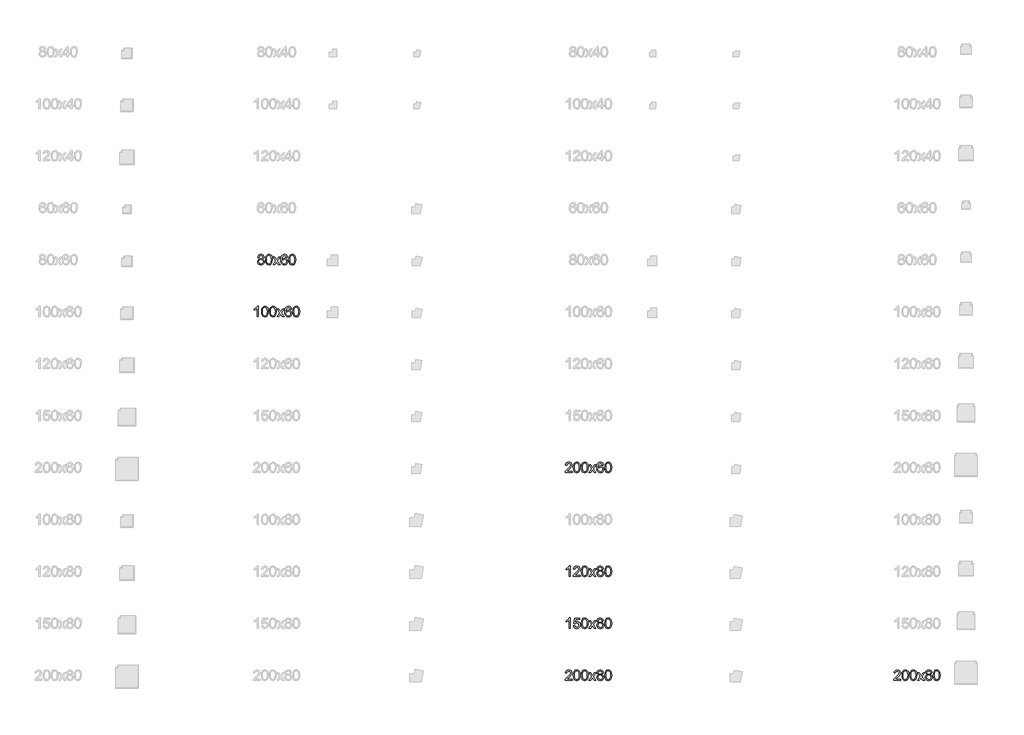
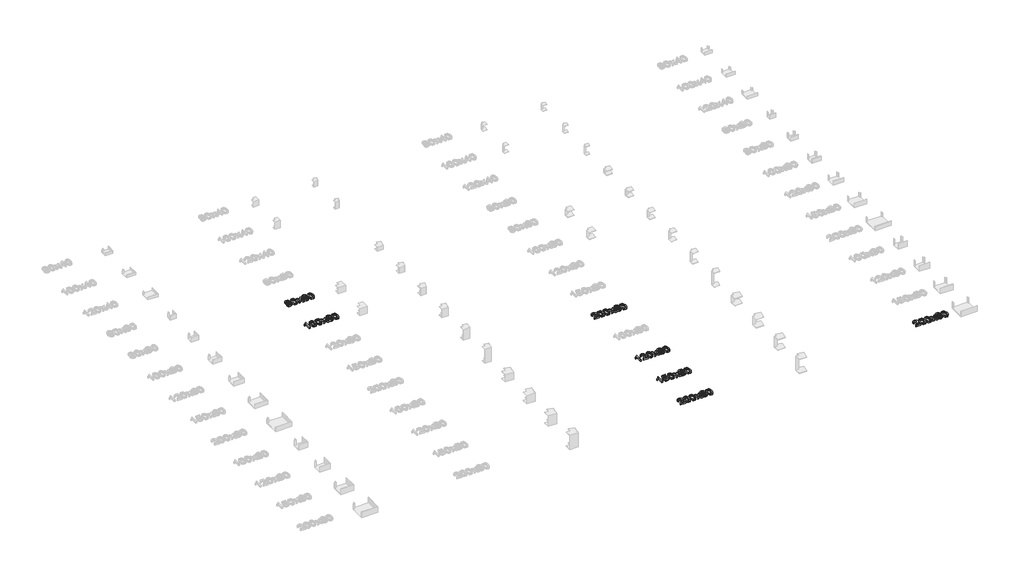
# One storey, part 15 of 28: 7 proxies.
"""IFC4 building model written with IfcOpenShell, lengths in millimetres."""

from ifc_helpers import new_model, si_unit, origin, origin_with_axes, place, context, project, spatial, polyline, outline, extrude, element, save

model = new_model("IFC4")

# Units and contexts
model_context = context("Model", 3, world=origin())
ifc_project = project(units=[si_unit("LENGTHUNIT", "METRE", prefix="MILLI")], contexts=[model_context])

# Site, building, storey
site = spatial("IfcSite", under=ifc_project)
building = spatial("IfcBuilding", under=site)
storey = spatial("IfcBuildingStorey", under=building, Name="Этаж 01", Elevation=0.0)

# Proxies
placement = place(None, origin())
element("IfcBuildingElementProxy", 1, Name="100 мм Arial", ObjectType="100 мм Arial", at=placement, inside=storey, context=model_context, shape_type="SweptSolid", body=[
    extrude(outline(polyline([(15077.1955345, -408.0058037), (15065.7544045, -400.2067054), (15062.0387963, -388.0665996), (15064.0621473, -378.2502817), (15070.1322002, -370.1384837), (15079.5683734, -364.6938302), (15091.6900851, -362.8789457), (15103.8853733, -364.7367497), (15113.4441738, -370.310162), (15119.6245913, -378.5507186), (15121.6847305, -388.4099561), (15118.0181733, -400.2434936), (15106.8958743, -408.0058037), (15120.2499907, -417.8527785), (15124.8239902, -434.1008999), (15122.5553845, -446.1061157), (15115.7495676, -456.0266668), (15105.2404053, -462.6853309), (15091.8617634, -464.9048856), (15078.4831215, -462.6761339), (15067.9739592, -455.9898786), (15061.1681423, -445.9742913), (15058.8995366, -433.7575434), (15063.6574771, -417.1292772), (15077.1955345, -408.0058037)]), holes=[polyline([(15074.5958351, -388.4344816), (15079.0472072, -398.2937191), (15092.0089162, -402.1196918), (15104.7131078, -398.3182445), (15109.1276917, -388.9985673), (15104.565955, -379.3477963), (15091.8617634, -375.4359844), (15079.1207836, -379.2619572), (15074.5958351, -388.4344816)]), polyline([(15071.4565754, -433.316085), (15073.5535028, -442.7706523), (15080.9724563, -449.8462493), (15091.9598653, -452.3478469), (15100.5069903, -451.0326687), (15106.9203997, -447.0871343), (15112.2669514, -433.7084925), (15106.7487215, -420.0723332), (15100.1881592, -416.0256312), (15091.5429323, -414.6767306), (15083.115369, -416.0072371), (15076.7663389, -419.9987568), (15071.4565754, -433.316085)])]), origin_with_axes(), (0.0, 0.0, 1.0), 20.0),
    extrude(outline(polyline([(15135.8113991, -413.9164411), (15139.5024818, -385.013179), (15150.4653652, -368.3481246), (15168.7736259, -362.8789457), (15183.4398547, -366.1163072), (15193.5688723, -375.4482472), (15199.4549843, -390.3106798), (15201.7358526, -413.9164411), (15198.0815581, -442.6970759), (15187.1554629, -459.3989185), (15178.9241032, -463.5283938), (15168.7736259, -464.9048856), (15155.7260778, -462.5136527), (15145.8177894, -455.3399538), (15138.3129967, -438.349937), (15135.8113991, -413.9164411)]), holes=[polyline([(15148.3684379, -413.8919156), (15149.8399658, -433.6441131), (15154.2545498, -445.0760461), (15160.8273748, -450.5298967), (15168.7736259, -452.3478469), (15176.719877, -450.5237653), (15183.2927019, -445.0515206), (15187.7072859, -433.6134563), (15189.1788139, -413.8919156), (15187.7563368, -394.5842423), (15183.4889057, -383.0634045), (15176.9283434, -377.3428394), (15168.6264731, -375.4359844), (15160.7660611, -377.1159789), (15154.4507535, -382.1559622), (15149.8890168, -394.3941699), (15148.3684379, -413.8919156)])]), origin_with_axes(), (0.0, 0.0, 1.0), 20.0),
    extrude(outline(polyline([(15208.014372, -463.3352558), (15234.8452322, -426.2527507), (15209.5840019, -389.562653), (15224.6916891, -389.562653), (15236.8808459, -407.2209888), (15242.5707541, -415.5596474), (15247.5003728, -408.7415677), (15261.3817868, -389.562653), (15276.489474, -389.562653), (15249.9529195, -426.2527507), (15275.5084554, -463.3352558), (15260.4007681, -463.3352558), (15245.0233007, -441.0416069), (15242.2028721, -436.9703795), (15223.1220593, -463.3352558), (15208.014372, -463.3352558)])), origin_with_axes(), (0.0, 0.0, 1.0), 20.0),
    extrude(outline(polyline([(15347.7114283, -389.562653), (15335.1543895, -391.1322829), (15330.3964491, -380.6599088), (15317.8148848, -375.4359844), (15306.4841194, -378.4771422), (15297.9124689, -389.8937468), (15294.3440135, -412.2732349), (15305.4172616, -402.2545819), (15319.13926, -398.9804321), (15330.7398056, -401.2183809), (15340.4764157, -407.9322273), (15347.0798976, -418.1900036), (15349.2810582, -431.0597421), (15345.1362543, -448.3869841), (15333.7319125, -460.6497172), (15317.2753246, -464.9048856), (15303.0290943, -462.084457), (15291.6830004, -453.6231711), (15284.2609812, -438.6871621), (15281.7869748, -416.4425641), (15284.533827, -391.4327198), (15292.7743837, -374.3323384), (15304.0254414, -365.7422938), (15318.5996998, -362.8789457), (15329.6177655, -364.6509106), (15338.440802, -369.9668054), (15344.6212196, -378.4096972), (15347.7114283, -389.562653)]), holes=[polyline([(15294.3440135, -430.8635384), (15297.2502813, -441.7405827), (15304.9758032, -449.6377828), (15316.2943059, -452.3478469), (15324.5808479, -450.9437639), (15331.0954249, -446.7315151), (15335.3168708, -440.1096392), (15336.7240194, -431.476675), (15335.3352649, -423.1901331), (15331.1690013, -416.8717598), (15324.5440597, -412.8710431), (15315.7792711, -411.5374709), (15300.5857447, -416.8717598), (15295.9044463, -423.0368489), (15294.3440135, -430.8635384)])]), origin_with_axes(), (0.0, 0.0, 1.0), 20.0),
    extrude(outline(polyline([(15360.2684671, -413.9164411), (15363.9595498, -385.013179), (15374.9224332, -368.3481246), (15393.2306938, -362.8789457), (15407.8969227, -366.1163072), (15418.0259403, -375.4482472), (15423.9120522, -390.3106798), (15426.1929206, -413.9164411), (15422.5386261, -442.6970759), (15411.6125309, -459.3989185), (15403.3811712, -463.5283938), (15393.2306938, -464.9048856), (15380.1831458, -462.5136527), (15370.2748573, -455.3399538), (15362.7700646, -438.349937), (15360.2684671, -413.9164411)]), holes=[polyline([(15372.8255058, -413.8919156), (15374.2970338, -433.6441131), (15378.7116178, -445.0760461), (15385.2844428, -450.5298967), (15393.2306938, -452.3478469), (15401.1769449, -450.5237653), (15407.7497699, -445.0515206), (15412.1643539, -433.6134563), (15413.6358818, -413.8919156), (15412.2134048, -394.5842423), (15407.9459737, -383.0634045), (15401.3854114, -377.3428394), (15393.0835411, -375.4359844), (15385.2231291, -377.1159789), (15378.9078215, -382.1559622), (15374.3460848, -394.3941699), (15372.8255058, -413.8919156)])]), origin_with_axes(), (0.0, 0.0, 1.0), 20.0),
])
element("IfcBuildingElementProxy", 2, Name="100 мм Arial", ObjectType="100 мм Arial", at=placement, inside=storey, context=model_context, shape_type="SweptSolid", body=[
    extrude(outline(polyline([(15067.5325008, -963.3352558), (15054.975462, -963.3352558), (15054.975462, -885.0499672), (15043.0806108, -893.5235158), (15029.8613845, -899.8633489), (15029.8613845, -887.9930232), (15048.267747, -876.2453248), (15059.4390969, -862.8789457), (15067.5325008, -862.8789457), (15067.5325008, -963.3352558)])), origin_with_axes(), (0.0, 0.0, 1.0), 20.0),
    extrude(outline(polyline([(15097.3554679, -913.9164411), (15101.0465505, -885.013179), (15112.009434, -868.3481246), (15130.3176946, -862.8789457), (15144.9839235, -866.1163072), (15155.1129411, -875.4482472), (15160.999053, -890.3106798), (15163.2799214, -913.9164411), (15159.6256269, -942.6970759), (15148.6995317, -959.3989185), (15140.468172, -963.5283938), (15130.3176946, -964.9048856), (15117.2701465, -962.5136527), (15107.3618581, -955.3399538), (15099.8570654, -938.349937), (15097.3554679, -913.9164411)]), holes=[polyline([(15109.9125066, -913.8919156), (15111.3840346, -933.6441131), (15115.7986186, -945.0760461), (15122.3714435, -950.5298967), (15130.3176946, -952.3478469), (15138.2639457, -950.5237653), (15144.8367707, -945.0515206), (15149.2513546, -933.6134563), (15150.7228826, -913.8919156), (15149.3004056, -894.5842423), (15145.0329744, -883.0634045), (15138.4724122, -877.3428394), (15130.1705418, -875.4359844), (15122.3101299, -877.1159789), (15115.9948223, -882.1559622), (15111.4330855, -894.3941699), (15109.9125066, -913.8919156)])]), origin_with_axes(), (0.0, 0.0, 1.0), 20.0),
    extrude(outline(polyline([(15174.2673303, -913.9164411), (15177.958413, -885.013179), (15188.9212965, -868.3481246), (15207.2295571, -862.8789457), (15221.895786, -866.1163072), (15232.0248036, -875.4482472), (15237.9109155, -890.3106798), (15240.1917839, -913.9164411), (15236.5374894, -942.6970759), (15225.6113941, -959.3989185), (15217.3800345, -963.5283938), (15207.2295571, -964.9048856), (15194.182009, -962.5136527), (15184.2737206, -955.3399538), (15176.7689279, -938.349937), (15174.2673303, -913.9164411)]), holes=[polyline([(15186.8243691, -913.8919156), (15188.2958971, -933.6441131), (15192.710481, -945.0760461), (15199.283306, -950.5298967), (15207.2295571, -952.3478469), (15215.1758082, -950.5237653), (15221.7486332, -945.0515206), (15226.1632171, -933.6134563), (15227.6347451, -913.8919156), (15226.212268, -894.5842423), (15221.9448369, -883.0634045), (15215.3842746, -877.3428394), (15207.0824043, -875.4359844), (15199.2219923, -877.1159789), (15192.9066847, -882.1559622), (15188.344948, -894.3941699), (15186.8243691, -913.8919156)])]), origin_with_axes(), (0.0, 0.0, 1.0), 20.0),
    extrude(outline(polyline([(15246.4703032, -963.3352558), (15273.3011634, -926.2527507), (15248.0399331, -889.562653), (15263.1476204, -889.562653), (15275.3367771, -907.2209888), (15281.0266853, -915.5596474), (15285.9563041, -908.7415677), (15299.837718, -889.562653), (15314.9454053, -889.562653), (15288.4088507, -926.2527507), (15313.9643866, -963.3352558), (15298.8566994, -963.3352558), (15283.479232, -941.0416069), (15280.6588033, -936.9703795), (15261.5779905, -963.3352558), (15246.4703032, -963.3352558)])), origin_with_axes(), (0.0, 0.0, 1.0), 20.0),
    extrude(outline(polyline([(15386.1673595, -889.562653), (15373.6103208, -891.1322829), (15368.8523803, -880.6599088), (15356.2708161, -875.4359844), (15344.9400506, -878.4771422), (15336.3684001, -889.8937468), (15332.7999448, -912.2732349), (15343.8731928, -902.2545819), (15357.5951912, -898.9804321), (15369.1957368, -901.2183809), (15378.932347, -907.9322273), (15385.5358288, -918.1900036), (15387.7369894, -931.0597421), (15383.5921856, -948.3869841), (15372.1878437, -960.6497172), (15355.7312558, -964.9048856), (15341.4850255, -962.084457), (15330.1389317, -953.6231711), (15322.7169124, -938.6871621), (15320.242906, -916.4425641), (15322.9897582, -891.4327198), (15331.2303149, -874.3323384), (15342.4813726, -865.7422938), (15357.055631, -862.8789457), (15368.0736967, -864.6509106), (15376.8967333, -869.9668054), (15383.0771508, -878.4096972), (15386.1673595, -889.562653)]), holes=[polyline([(15332.7999448, -930.8635384), (15335.7062125, -941.7405827), (15343.4317344, -949.6377828), (15354.7502372, -952.3478469), (15363.0367791, -950.9437639), (15369.5513561, -946.7315151), (15373.772802, -940.1096392), (15375.1799506, -931.476675), (15373.7911961, -923.1901331), (15369.6249325, -916.8717598), (15362.9999909, -912.8710431), (15354.2352024, -911.5374709), (15339.041676, -916.8717598), (15334.3603776, -923.0368489), (15332.7999448, -930.8635384)])]), origin_with_axes(), (0.0, 0.0, 1.0), 20.0),
    extrude(outline(polyline([(15398.7243983, -913.9164411), (15402.415481, -885.013179), (15413.3783645, -868.3481246), (15431.6866251, -862.8789457), (15446.352854, -866.1163072), (15456.4818716, -875.4482472), (15462.3679835, -890.3106798), (15464.6488518, -913.9164411), (15460.9945574, -942.6970759), (15450.0684621, -959.3989185), (15441.8371025, -963.5283938), (15431.6866251, -964.9048856), (15418.639077, -962.5136527), (15408.7307886, -955.3399538), (15401.2259959, -938.349937), (15398.7243983, -913.9164411)]), holes=[polyline([(15411.2814371, -913.8919156), (15412.7529651, -933.6441131), (15417.167549, -945.0760461), (15423.740374, -950.5298967), (15431.6866251, -952.3478469), (15439.6328762, -950.5237653), (15446.2057012, -945.0515206), (15450.6202851, -933.6134563), (15452.0918131, -913.8919156), (15450.669336, -894.5842423), (15446.4019049, -883.0634045), (15439.8413426, -877.3428394), (15431.5394723, -875.4359844), (15423.6790603, -877.1159789), (15417.3637527, -882.1559622), (15412.802016, -894.3941699), (15411.2814371, -913.8919156)])]), origin_with_axes(), (0.0, 0.0, 1.0), 20.0),
])
element("IfcBuildingElementProxy", 3, Name="100 мм Arial", ObjectType="100 мм Arial", at=placement, inside=storey, context=model_context, shape_type="SweptSolid", body=[
    extrude(outline(polyline([(18084.7984291, -2450.778217), (18084.7984291, -2463.3352558), (18018.8739756, -2463.3352558), (18020.2228762, -2454.6777662), (18027.8502962, -2441.3481752), (18043.5711202, -2426.7923109), (18065.2516324, -2405.8720882), (18070.6717605, -2391.6473177), (18065.5582007, -2380.1326112), (18052.2040843, -2375.4359844), (18038.2858822, -2380.0222466), (18033.0006442, -2392.7019127), (18020.4436054, -2391.1322829), (18023.4878289, -2378.9860457), (18030.0698509, -2370.1139582), (18039.846315, -2364.6876988), (18052.4738644, -2362.8789457), (18065.1933844, -2364.8900339), (18074.9514544, -2370.9232986), (18081.159463, -2379.9364075), (18083.2287992, -2390.8870282), (18080.9969818, -2402.7941421), (18073.5780282, -2415.1059262), (18055.5885987, -2432.3105409), (18041.143099, -2444.389333), (18035.4777163, -2450.778217), (18084.7984291, -2450.778217)])), origin_with_axes(), (0.0, 0.0, 1.0), 20.0),
    extrude(outline(polyline([(18097.3554679, -2413.9164411), (18101.0465505, -2385.013179), (18112.009434, -2368.3481246), (18130.3176946, -2362.8789457), (18144.9839235, -2366.1163072), (18155.1129411, -2375.4482472), (18160.999053, -2390.3106798), (18163.2799214, -2413.9164411), (18159.6256269, -2442.6970759), (18148.6995317, -2459.3989185), (18140.468172, -2463.5283938), (18130.3176946, -2464.9048856), (18117.2701465, -2462.5136527), (18107.3618581, -2455.3399538), (18099.8570654, -2438.349937), (18097.3554679, -2413.9164411)]), holes=[polyline([(18109.9125066, -2413.8919156), (18111.3840346, -2433.6441131), (18115.7986186, -2445.0760461), (18122.3714435, -2450.5298967), (18130.3176946, -2452.3478469), (18138.2639457, -2450.5237653), (18144.8367707, -2445.0515206), (18149.2513546, -2433.6134563), (18150.7228826, -2413.8919156), (18149.3004056, -2394.5842423), (18145.0329744, -2383.0634045), (18138.4724122, -2377.3428394), (18130.1705418, -2375.4359844), (18122.3101299, -2377.1159789), (18115.9948223, -2382.1559622), (18111.4330855, -2394.3941699), (18109.9125066, -2413.8919156)])]), origin_with_axes(), (0.0, 0.0, 1.0), 20.0),
    extrude(outline(polyline([(18174.2673303, -2413.9164411), (18177.958413, -2385.013179), (18188.9212965, -2368.3481246), (18207.2295571, -2362.8789457), (18221.895786, -2366.1163072), (18232.0248036, -2375.4482472), (18237.9109155, -2390.3106798), (18240.1917839, -2413.9164411), (18236.5374894, -2442.6970759), (18225.6113941, -2459.3989185), (18217.3800345, -2463.5283938), (18207.2295571, -2464.9048856), (18194.182009, -2462.5136527), (18184.2737206, -2455.3399538), (18176.7689279, -2438.349937), (18174.2673303, -2413.9164411)]), holes=[polyline([(18186.8243691, -2413.8919156), (18188.2958971, -2433.6441131), (18192.710481, -2445.0760461), (18199.283306, -2450.5298967), (18207.2295571, -2452.3478469), (18215.1758082, -2450.5237653), (18221.7486332, -2445.0515206), (18226.1632171, -2433.6134563), (18227.6347451, -2413.8919156), (18226.212268, -2394.5842423), (18221.9448369, -2383.0634045), (18215.3842746, -2377.3428394), (18207.0824043, -2375.4359844), (18199.2219923, -2377.1159789), (18192.9066847, -2382.1559622), (18188.344948, -2394.3941699), (18186.8243691, -2413.8919156)])]), origin_with_axes(), (0.0, 0.0, 1.0), 20.0),
    extrude(outline(polyline([(18246.4703032, -2463.3352558), (18273.3011634, -2426.2527507), (18248.0399331, -2389.562653), (18263.1476204, -2389.562653), (18275.3367771, -2407.2209888), (18281.0266853, -2415.5596474), (18285.9563041, -2408.7415677), (18299.837718, -2389.562653), (18314.9454053, -2389.562653), (18288.4088507, -2426.2527507), (18313.9643866, -2463.3352558), (18298.8566994, -2463.3352558), (18283.479232, -2441.0416069), (18280.6588033, -2436.9703795), (18261.5779905, -2463.3352558), (18246.4703032, -2463.3352558)])), origin_with_axes(), (0.0, 0.0, 1.0), 20.0),
    extrude(outline(polyline([(18386.1673595, -2389.562653), (18373.6103208, -2391.1322829), (18368.8523803, -2380.6599088), (18356.2708161, -2375.4359844), (18344.9400506, -2378.4771422), (18336.3684001, -2389.8937468), (18332.7999448, -2412.2732349), (18343.8731928, -2402.2545819), (18357.5951912, -2398.9804321), (18369.1957368, -2401.2183809), (18378.932347, -2407.9322273), (18385.5358288, -2418.1900036), (18387.7369894, -2431.0597421), (18383.5921856, -2448.3869841), (18372.1878437, -2460.6497172), (18355.7312558, -2464.9048856), (18341.4850255, -2462.084457), (18330.1389317, -2453.6231711), (18322.7169124, -2438.6871621), (18320.242906, -2416.4425641), (18322.9897582, -2391.4327198), (18331.2303149, -2374.3323384), (18342.4813726, -2365.7422938), (18357.055631, -2362.8789457), (18368.0736967, -2364.6509106), (18376.8967333, -2369.9668054), (18383.0771508, -2378.4096972), (18386.1673595, -2389.562653)]), holes=[polyline([(18332.7999448, -2430.8635384), (18335.7062125, -2441.7405827), (18343.4317344, -2449.6377828), (18354.7502372, -2452.3478469), (18363.0367791, -2450.9437639), (18369.5513561, -2446.7315151), (18373.772802, -2440.1096392), (18375.1799506, -2431.476675), (18373.7911961, -2423.1901331), (18369.6249325, -2416.8717598), (18362.9999909, -2412.8710431), (18354.2352024, -2411.5374709), (18339.041676, -2416.8717598), (18334.3603776, -2423.0368489), (18332.7999448, -2430.8635384)])]), origin_with_axes(), (0.0, 0.0, 1.0), 20.0),
    extrude(outline(polyline([(18398.7243983, -2413.9164411), (18402.415481, -2385.013179), (18413.3783645, -2368.3481246), (18431.6866251, -2362.8789457), (18446.352854, -2366.1163072), (18456.4818716, -2375.4482472), (18462.3679835, -2390.3106798), (18464.6488518, -2413.9164411), (18460.9945574, -2442.6970759), (18450.0684621, -2459.3989185), (18441.8371025, -2463.5283938), (18431.6866251, -2464.9048856), (18418.639077, -2462.5136527), (18408.7307886, -2455.3399538), (18401.2259959, -2438.349937), (18398.7243983, -2413.9164411)]), holes=[polyline([(18411.2814371, -2413.8919156), (18412.7529651, -2433.6441131), (18417.167549, -2445.0760461), (18423.740374, -2450.5298967), (18431.6866251, -2452.3478469), (18439.6328762, -2450.5237653), (18446.2057012, -2445.0515206), (18450.6202851, -2433.6134563), (18452.0918131, -2413.8919156), (18450.669336, -2394.5842423), (18446.4019049, -2383.0634045), (18439.8413426, -2377.3428394), (18431.5394723, -2375.4359844), (18423.6790603, -2377.1159789), (18417.3637527, -2382.1559622), (18412.802016, -2394.3941699), (18411.2814371, -2413.8919156)])]), origin_with_axes(), (0.0, 0.0, 1.0), 20.0),
])
element("IfcBuildingElementProxy", 4, Name="100 мм Arial", ObjectType="100 мм Arial", at=placement, inside=storey, context=model_context, shape_type="SweptSolid", body=[
    extrude(outline(polyline([(18067.5325008, -3463.3352558), (18054.975462, -3463.3352558), (18054.975462, -3385.0499672), (18043.0806108, -3393.5235158), (18029.8613845, -3399.8633489), (18029.8613845, -3387.9930232), (18048.267747, -3376.2453248), (18059.4390969, -3362.8789457), (18067.5325008, -3362.8789457), (18067.5325008, -3463.3352558)])), origin_with_axes(), (0.0, 0.0, 1.0), 20.0),
    extrude(outline(polyline([(18161.7102916, -3450.778217), (18161.7102916, -3463.3352558), (18095.785838, -3463.3352558), (18097.1347387, -3454.6777662), (18104.7621587, -3441.3481752), (18120.4829826, -3426.7923109), (18142.1634949, -3405.8720882), (18147.5836229, -3391.6473177), (18142.4700632, -3380.1326112), (18129.1159468, -3375.4359844), (18115.1977446, -3380.0222466), (18109.9125066, -3392.7019127), (18097.3554679, -3391.1322829), (18100.3996914, -3378.9860457), (18106.9817134, -3370.1139582), (18116.7581774, -3364.6876988), (18129.3857269, -3362.8789457), (18142.1052469, -3364.8900339), (18151.8633168, -3370.9232986), (18158.0713255, -3379.9364075), (18160.1406617, -3390.8870282), (18157.9088443, -3402.7941421), (18150.4898907, -3415.1059262), (18132.5004611, -3432.3105409), (18118.0549615, -3444.389333), (18112.3895787, -3450.778217), (18161.7102916, -3450.778217)])), origin_with_axes(), (0.0, 0.0, 1.0), 20.0),
    extrude(outline(polyline([(18174.2673303, -3413.9164411), (18177.958413, -3385.013179), (18188.9212965, -3368.3481246), (18207.2295571, -3362.8789457), (18221.895786, -3366.1163072), (18232.0248036, -3375.4482472), (18237.9109155, -3390.3106798), (18240.1917839, -3413.9164411), (18236.5374894, -3442.6970759), (18225.6113941, -3459.3989185), (18217.3800345, -3463.5283938), (18207.2295571, -3464.9048856), (18194.182009, -3462.5136527), (18184.2737206, -3455.3399538), (18176.7689279, -3438.349937), (18174.2673303, -3413.9164411)]), holes=[polyline([(18186.8243691, -3413.8919156), (18188.2958971, -3433.6441131), (18192.710481, -3445.0760461), (18199.283306, -3450.5298967), (18207.2295571, -3452.3478469), (18215.1758082, -3450.5237653), (18221.7486332, -3445.0515206), (18226.1632171, -3433.6134563), (18227.6347451, -3413.8919156), (18226.212268, -3394.5842423), (18221.9448369, -3383.0634045), (18215.3842746, -3377.3428394), (18207.0824043, -3375.4359844), (18199.2219923, -3377.1159789), (18192.9066847, -3382.1559622), (18188.344948, -3394.3941699), (18186.8243691, -3413.8919156)])]), origin_with_axes(), (0.0, 0.0, 1.0), 20.0),
    extrude(outline(polyline([(18246.4703032, -3463.3352558), (18273.3011634, -3426.2527507), (18248.0399331, -3389.562653), (18263.1476204, -3389.562653), (18275.3367771, -3407.2209888), (18281.0266853, -3415.5596474), (18285.9563041, -3408.7415677), (18299.837718, -3389.562653), (18314.9454053, -3389.562653), (18288.4088507, -3426.2527507), (18313.9643866, -3463.3352558), (18298.8566994, -3463.3352558), (18283.479232, -3441.0416069), (18280.6588033, -3436.9703795), (18261.5779905, -3463.3352558), (18246.4703032, -3463.3352558)])), origin_with_axes(), (0.0, 0.0, 1.0), 20.0),
    extrude(outline(polyline([(18340.1085337, -3408.0058037), (18328.6674037, -3400.2067054), (18324.9517955, -3388.0665996), (18326.9751465, -3378.2502817), (18333.0451994, -3370.1384837), (18342.4813726, -3364.6938302), (18354.6030844, -3362.8789457), (18366.7983725, -3364.7367497), (18376.357173, -3370.310162), (18382.5375905, -3378.5507186), (18384.5977297, -3388.4099561), (18380.9311725, -3400.2434936), (18369.8088735, -3408.0058037), (18383.1629899, -3417.8527785), (18387.7369894, -3434.1008999), (18385.4683838, -3446.1061157), (18378.6625668, -3456.0266668), (18368.1534045, -3462.6853309), (18354.7747626, -3464.9048856), (18341.3961207, -3462.6761339), (18330.8869584, -3455.9898786), (18324.0811415, -3445.9742913), (18321.8125359, -3433.7575434), (18326.5704763, -3417.1292772), (18340.1085337, -3408.0058037)]), holes=[polyline([(18337.5088343, -3388.4344816), (18341.9602065, -3398.2937191), (18354.9219154, -3402.1196918), (18367.626107, -3398.3182445), (18372.0406909, -3388.9985673), (18367.4789542, -3379.3477963), (18354.7747626, -3375.4359844), (18342.0337829, -3379.2619572), (18337.5088343, -3388.4344816)]), polyline([(18334.3695746, -3433.316085), (18336.466502, -3442.7706523), (18343.8854556, -3449.8462493), (18354.8728645, -3452.3478469), (18363.4199895, -3451.0326687), (18369.833399, -3447.0871343), (18375.1799506, -3433.7084925), (18369.6617207, -3420.0723332), (18363.1011584, -3416.0256312), (18354.4559316, -3414.6767306), (18346.0283682, -3416.0072371), (18339.6793381, -3419.9987568), (18334.3695746, -3433.316085)])]), origin_with_axes(), (0.0, 0.0, 1.0), 20.0),
    extrude(outline(polyline([(18398.7243983, -3413.9164411), (18402.415481, -3385.013179), (18413.3783645, -3368.3481246), (18431.6866251, -3362.8789457), (18446.352854, -3366.1163072), (18456.4818716, -3375.4482472), (18462.3679835, -3390.3106798), (18464.6488518, -3413.9164411), (18460.9945574, -3442.6970759), (18450.0684621, -3459.3989185), (18441.8371025, -3463.5283938), (18431.6866251, -3464.9048856), (18418.639077, -3462.5136527), (18408.7307886, -3455.3399538), (18401.2259959, -3438.349937), (18398.7243983, -3413.9164411)]), holes=[polyline([(18411.2814371, -3413.8919156), (18412.7529651, -3433.6441131), (18417.167549, -3445.0760461), (18423.740374, -3450.5298967), (18431.6866251, -3452.3478469), (18439.6328762, -3450.5237653), (18446.2057012, -3445.0515206), (18450.6202851, -3433.6134563), (18452.0918131, -3413.8919156), (18450.669336, -3394.5842423), (18446.4019049, -3383.0634045), (18439.8413426, -3377.3428394), (18431.5394723, -3375.4359844), (18423.6790603, -3377.1159789), (18417.3637527, -3382.1559622), (18412.802016, -3394.3941699), (18411.2814371, -3413.8919156)])]), origin_with_axes(), (0.0, 0.0, 1.0), 20.0),
])
element("IfcBuildingElementProxy", 5, Name="100 мм Arial", ObjectType="100 мм Arial", at=placement, inside=storey, context=model_context, shape_type="SweptSolid", body=[
    extrude(outline(polyline([(18067.5325008, -3963.3352558), (18054.975462, -3963.3352558), (18054.975462, -3885.0499672), (18043.0806108, -3893.5235158), (18029.8613845, -3899.8633489), (18029.8613845, -3887.9930232), (18048.267747, -3876.2453248), (18059.4390969, -3862.8789457), (18067.5325008, -3862.8789457), (18067.5325008, -3963.3352558)])), origin_with_axes(), (0.0, 0.0, 1.0), 20.0),
    extrude(outline(polyline([(18097.3554679, -3936.6515484), (18109.9125066, -3935.0819186), (18116.2400769, -3948.0191021), (18129.3612014, -3952.3478469), (18138.3620476, -3950.8425964), (18145.1065508, -3946.3268449), (18149.3187997, -3939.3217586), (18150.7228826, -3930.3485036), (18145.4621701, -3915.43702), (18138.8556226, -3911.3351358), (18129.5574052, -3909.967841), (18118.5332081, -3912.1506075), (18111.4821365, -3917.8159903), (18098.9250977, -3916.2463604), (18109.9125066, -3864.4485755), (18158.5710319, -3864.4485755), (18158.5710319, -3877.0056143), (18120.0660497, -3877.0056143), (18114.6949726, -3904.6703403), (18123.6651619, -3899.2256868), (18133.0645469, -3897.4108023), (18144.7969168, -3899.6610138), (18154.5365926, -3906.4116484), (18161.0940892, -3916.7000815), (18163.2799214, -3929.5636886), (18161.3117527, -3942.1207274), (18155.4072467, -3952.8628817), (18144.1010067, -3961.8943847), (18129.3121505, -3964.9048856), (18116.9789066, -3962.9704395), (18107.1533917, -3957.167101), (18100.4180855, -3948.1693206), (18097.3554679, -3936.6515484)])), origin_with_axes(), (0.0, 0.0, 1.0), 20.0),
    extrude(outline(polyline([(18174.2673303, -3913.9164411), (18177.958413, -3885.013179), (18188.9212965, -3868.3481246), (18207.2295571, -3862.8789457), (18221.895786, -3866.1163072), (18232.0248036, -3875.4482472), (18237.9109155, -3890.3106798), (18240.1917839, -3913.9164411), (18236.5374894, -3942.6970759), (18225.6113941, -3959.3989185), (18217.3800345, -3963.5283938), (18207.2295571, -3964.9048856), (18194.182009, -3962.5136527), (18184.2737206, -3955.3399538), (18176.7689279, -3938.349937), (18174.2673303, -3913.9164411)]), holes=[polyline([(18186.8243691, -3913.8919156), (18188.2958971, -3933.6441131), (18192.710481, -3945.0760461), (18199.283306, -3950.5298967), (18207.2295571, -3952.3478469), (18215.1758082, -3950.5237653), (18221.7486332, -3945.0515206), (18226.1632171, -3933.6134563), (18227.6347451, -3913.8919156), (18226.212268, -3894.5842423), (18221.9448369, -3883.0634045), (18215.3842746, -3877.3428394), (18207.0824043, -3875.4359844), (18199.2219923, -3877.1159789), (18192.9066847, -3882.1559622), (18188.344948, -3894.3941699), (18186.8243691, -3913.8919156)])]), origin_with_axes(), (0.0, 0.0, 1.0), 20.0),
    extrude(outline(polyline([(18246.4703032, -3963.3352558), (18273.3011634, -3926.2527507), (18248.0399331, -3889.562653), (18263.1476204, -3889.562653), (18275.3367771, -3907.2209888), (18281.0266853, -3915.5596474), (18285.9563041, -3908.7415677), (18299.837718, -3889.562653), (18314.9454053, -3889.562653), (18288.4088507, -3926.2527507), (18313.9643866, -3963.3352558), (18298.8566994, -3963.3352558), (18283.479232, -3941.0416069), (18280.6588033, -3936.9703795), (18261.5779905, -3963.3352558), (18246.4703032, -3963.3352558)])), origin_with_axes(), (0.0, 0.0, 1.0), 20.0),
    extrude(outline(polyline([(18340.1085337, -3908.0058037), (18328.6674037, -3900.2067054), (18324.9517955, -3888.0665996), (18326.9751465, -3878.2502817), (18333.0451994, -3870.1384837), (18342.4813726, -3864.6938302), (18354.6030844, -3862.8789457), (18366.7983725, -3864.7367497), (18376.357173, -3870.310162), (18382.5375905, -3878.5507186), (18384.5977297, -3888.4099561), (18380.9311725, -3900.2434936), (18369.8088735, -3908.0058037), (18383.1629899, -3917.8527785), (18387.7369894, -3934.1008999), (18385.4683838, -3946.1061157), (18378.6625668, -3956.0266668), (18368.1534045, -3962.6853309), (18354.7747626, -3964.9048856), (18341.3961207, -3962.6761339), (18330.8869584, -3955.9898786), (18324.0811415, -3945.9742913), (18321.8125359, -3933.7575434), (18326.5704763, -3917.1292772), (18340.1085337, -3908.0058037)]), holes=[polyline([(18334.3695746, -3933.316085), (18336.466502, -3942.7706523), (18343.8854556, -3949.8462493), (18354.8728645, -3952.3478469), (18363.4199895, -3951.0326687), (18369.833399, -3947.0871343), (18375.1799506, -3933.7084925), (18369.6617207, -3920.0723332), (18363.1011584, -3916.0256312), (18354.4559316, -3914.6767306), (18346.0283682, -3916.0072371), (18339.6793381, -3919.9987568), (18334.3695746, -3933.316085)]), polyline([(18337.5088343, -3888.4344816), (18341.9602065, -3898.2937191), (18354.9219154, -3902.1196918), (18367.626107, -3898.3182445), (18372.0406909, -3888.9985673), (18367.4789542, -3879.3477963), (18354.7747626, -3875.4359844), (18342.0337829, -3879.2619572), (18337.5088343, -3888.4344816)])]), origin_with_axes(), (0.0, 0.0, 1.0), 20.0),
    extrude(outline(polyline([(18398.7243983, -3913.9164411), (18402.415481, -3885.013179), (18413.3783645, -3868.3481246), (18431.6866251, -3862.8789457), (18446.352854, -3866.1163072), (18456.4818716, -3875.4482472), (18462.3679835, -3890.3106798), (18464.6488518, -3913.9164411), (18460.9945574, -3942.6970759), (18450.0684621, -3959.3989185), (18441.8371025, -3963.5283938), (18431.6866251, -3964.9048856), (18418.639077, -3962.5136527), (18408.7307886, -3955.3399538), (18401.2259959, -3938.349937), (18398.7243983, -3913.9164411)]), holes=[polyline([(18411.2814371, -3913.8919156), (18412.7529651, -3933.6441131), (18417.167549, -3945.0760461), (18423.740374, -3950.5298967), (18431.6866251, -3952.3478469), (18439.6328762, -3950.5237653), (18446.2057012, -3945.0515206), (18450.6202851, -3933.6134563), (18452.0918131, -3913.8919156), (18450.669336, -3894.5842423), (18446.4019049, -3883.0634045), (18439.8413426, -3877.3428394), (18431.5394723, -3875.4359844), (18423.6790603, -3877.1159789), (18417.3637527, -3882.1559622), (18412.802016, -3894.3941699), (18411.2814371, -3913.8919156)])]), origin_with_axes(), (0.0, 0.0, 1.0), 20.0),
])
element("IfcBuildingElementProxy", 6, Name="100 мм Arial", ObjectType="100 мм Arial", at=placement, inside=storey, context=model_context, shape_type="SweptSolid", body=[
    extrude(outline(polyline([(18084.7984291, -4450.778217), (18084.7984291, -4463.3352558), (18018.8739756, -4463.3352558), (18020.2228762, -4454.6777662), (18027.8502962, -4441.3481752), (18043.5711202, -4426.7923109), (18065.2516324, -4405.8720882), (18070.6717605, -4391.6473177), (18065.5582007, -4380.1326112), (18052.2040843, -4375.4359844), (18038.2858822, -4380.0222466), (18033.0006442, -4392.7019127), (18020.4436054, -4391.1322829), (18023.4878289, -4378.9860457), (18030.0698509, -4370.1139582), (18039.846315, -4364.6876988), (18052.4738644, -4362.8789457), (18065.1933844, -4364.8900339), (18074.9514544, -4370.9232986), (18081.159463, -4379.9364075), (18083.2287992, -4390.8870282), (18080.9969818, -4402.7941421), (18073.5780282, -4415.1059262), (18055.5885987, -4432.3105409), (18041.143099, -4444.389333), (18035.4777163, -4450.778217), (18084.7984291, -4450.778217)])), origin_with_axes(), (0.0, 0.0, 1.0), 20.0),
    extrude(outline(polyline([(18097.3554679, -4413.9164411), (18101.0465505, -4385.013179), (18112.009434, -4368.3481246), (18130.3176946, -4362.8789457), (18144.9839235, -4366.1163072), (18155.1129411, -4375.4482472), (18160.999053, -4390.3106798), (18163.2799214, -4413.9164411), (18159.6256269, -4442.6970759), (18148.6995317, -4459.3989185), (18140.468172, -4463.5283938), (18130.3176946, -4464.9048856), (18117.2701465, -4462.5136527), (18107.3618581, -4455.3399538), (18099.8570654, -4438.349937), (18097.3554679, -4413.9164411)]), holes=[polyline([(18109.9125066, -4413.8919156), (18111.3840346, -4433.6441131), (18115.7986186, -4445.0760461), (18122.3714435, -4450.5298967), (18130.3176946, -4452.3478469), (18138.2639457, -4450.5237653), (18144.8367707, -4445.0515206), (18149.2513546, -4433.6134563), (18150.7228826, -4413.8919156), (18149.3004056, -4394.5842423), (18145.0329744, -4383.0634045), (18138.4724122, -4377.3428394), (18130.1705418, -4375.4359844), (18122.3101299, -4377.1159789), (18115.9948223, -4382.1559622), (18111.4330855, -4394.3941699), (18109.9125066, -4413.8919156)])]), origin_with_axes(), (0.0, 0.0, 1.0), 20.0),
    extrude(outline(polyline([(18174.2673303, -4413.9164411), (18177.958413, -4385.013179), (18188.9212965, -4368.3481246), (18207.2295571, -4362.8789457), (18221.895786, -4366.1163072), (18232.0248036, -4375.4482472), (18237.9109155, -4390.3106798), (18240.1917839, -4413.9164411), (18236.5374894, -4442.6970759), (18225.6113941, -4459.3989185), (18217.3800345, -4463.5283938), (18207.2295571, -4464.9048856), (18194.182009, -4462.5136527), (18184.2737206, -4455.3399538), (18176.7689279, -4438.349937), (18174.2673303, -4413.9164411)]), holes=[polyline([(18186.8243691, -4413.8919156), (18188.2958971, -4433.6441131), (18192.710481, -4445.0760461), (18199.283306, -4450.5298967), (18207.2295571, -4452.3478469), (18215.1758082, -4450.5237653), (18221.7486332, -4445.0515206), (18226.1632171, -4433.6134563), (18227.6347451, -4413.8919156), (18226.212268, -4394.5842423), (18221.9448369, -4383.0634045), (18215.3842746, -4377.3428394), (18207.0824043, -4375.4359844), (18199.2219923, -4377.1159789), (18192.9066847, -4382.1559622), (18188.344948, -4394.3941699), (18186.8243691, -4413.8919156)])]), origin_with_axes(), (0.0, 0.0, 1.0), 20.0),
    extrude(outline(polyline([(18246.4703032, -4463.3352558), (18273.3011634, -4426.2527507), (18248.0399331, -4389.562653), (18263.1476204, -4389.562653), (18275.3367771, -4407.2209888), (18281.0266853, -4415.5596474), (18285.9563041, -4408.7415677), (18299.837718, -4389.562653), (18314.9454053, -4389.562653), (18288.4088507, -4426.2527507), (18313.9643866, -4463.3352558), (18298.8566994, -4463.3352558), (18283.479232, -4441.0416069), (18280.6588033, -4436.9703795), (18261.5779905, -4463.3352558), (18246.4703032, -4463.3352558)])), origin_with_axes(), (0.0, 0.0, 1.0), 20.0),
    extrude(outline(polyline([(18340.1085337, -4408.0058037), (18328.6674037, -4400.2067054), (18324.9517955, -4388.0665996), (18326.9751465, -4378.2502817), (18333.0451994, -4370.1384837), (18342.4813726, -4364.6938302), (18354.6030844, -4362.8789457), (18366.7983725, -4364.7367497), (18376.357173, -4370.310162), (18382.5375905, -4378.5507186), (18384.5977297, -4388.4099561), (18380.9311725, -4400.2434936), (18369.8088735, -4408.0058037), (18383.1629899, -4417.8527785), (18387.7369894, -4434.1008999), (18385.4683838, -4446.1061157), (18378.6625668, -4456.0266668), (18368.1534045, -4462.6853309), (18354.7747626, -4464.9048856), (18341.3961207, -4462.6761339), (18330.8869584, -4455.9898786), (18324.0811415, -4445.9742913), (18321.8125359, -4433.7575434), (18326.5704763, -4417.1292772), (18340.1085337, -4408.0058037)]), holes=[polyline([(18334.3695746, -4433.316085), (18336.466502, -4442.7706523), (18343.8854556, -4449.8462493), (18354.8728645, -4452.3478469), (18363.4199895, -4451.0326687), (18369.833399, -4447.0871343), (18375.1799506, -4433.7084925), (18369.6617207, -4420.0723332), (18363.1011584, -4416.0256312), (18354.4559316, -4414.6767306), (18346.0283682, -4416.0072371), (18339.6793381, -4419.9987568), (18334.3695746, -4433.316085)]), polyline([(18337.5088343, -4388.4344816), (18341.9602065, -4398.2937191), (18354.9219154, -4402.1196918), (18367.626107, -4398.3182445), (18372.0406909, -4388.9985673), (18367.4789542, -4379.3477963), (18354.7747626, -4375.4359844), (18342.0337829, -4379.2619572), (18337.5088343, -4388.4344816)])]), origin_with_axes(), (0.0, 0.0, 1.0), 20.0),
    extrude(outline(polyline([(18398.7243983, -4413.9164411), (18402.415481, -4385.013179), (18413.3783645, -4368.3481246), (18431.6866251, -4362.8789457), (18446.352854, -4366.1163072), (18456.4818716, -4375.4482472), (18462.3679835, -4390.3106798), (18464.6488518, -4413.9164411), (18460.9945574, -4442.6970759), (18450.0684621, -4459.3989185), (18441.8371025, -4463.5283938), (18431.6866251, -4464.9048856), (18418.639077, -4462.5136527), (18408.7307886, -4455.3399538), (18401.2259959, -4438.349937), (18398.7243983, -4413.9164411)]), holes=[polyline([(18411.2814371, -4413.8919156), (18412.7529651, -4433.6441131), (18417.167549, -4445.0760461), (18423.740374, -4450.5298967), (18431.6866251, -4452.3478469), (18439.6328762, -4450.5237653), (18446.2057012, -4445.0515206), (18450.6202851, -4433.6134563), (18452.0918131, -4413.8919156), (18450.669336, -4394.5842423), (18446.4019049, -4383.0634045), (18439.8413426, -4377.3428394), (18431.5394723, -4375.4359844), (18423.6790603, -4377.1159789), (18417.3637527, -4382.1559622), (18412.802016, -4394.3941699), (18411.2814371, -4413.8919156)])]), origin_with_axes(), (0.0, 0.0, 1.0), 20.0),
])
element("IfcBuildingElementProxy", 7, Name="100 мм Arial", ObjectType="100 мм Arial", at=placement, inside=storey, context=model_context, shape_type="SweptSolid", body=[
    extrude(outline(polyline([(21244.7984291, -4450.778217), (21244.7984291, -4463.3352558), (21178.8739756, -4463.3352558), (21180.2228762, -4454.6777662), (21187.8502962, -4441.3481752), (21203.5711202, -4426.7923109), (21225.2516324, -4405.8720882), (21230.6717605, -4391.6473177), (21225.5582007, -4380.1326112), (21212.2040843, -4375.4359844), (21198.2858822, -4380.0222466), (21193.0006442, -4392.7019127), (21180.4436054, -4391.1322829), (21183.4878289, -4378.9860457), (21190.0698509, -4370.1139582), (21199.846315, -4364.6876988), (21212.4738644, -4362.8789457), (21225.1933844, -4364.8900339), (21234.9514544, -4370.9232986), (21241.159463, -4379.9364075), (21243.2287992, -4390.8870282), (21240.9969818, -4402.7941421), (21233.5780282, -4415.1059262), (21215.5885987, -4432.3105409), (21201.143099, -4444.389333), (21195.4777163, -4450.778217), (21244.7984291, -4450.778217)])), origin_with_axes(), (0.0, 0.0, 1.0), 20.0),
    extrude(outline(polyline([(21257.3554679, -4413.9164411), (21261.0465505, -4385.013179), (21272.009434, -4368.3481246), (21290.3176946, -4362.8789457), (21304.9839235, -4366.1163072), (21315.1129411, -4375.4482472), (21320.999053, -4390.3106798), (21323.2799214, -4413.9164411), (21319.6256269, -4442.6970759), (21308.6995317, -4459.3989185), (21300.468172, -4463.5283938), (21290.3176946, -4464.9048856), (21277.2701465, -4462.5136527), (21267.3618581, -4455.3399538), (21259.8570654, -4438.349937), (21257.3554679, -4413.9164411)]), holes=[polyline([(21269.9125066, -4413.8919156), (21271.3840346, -4433.6441131), (21275.7986186, -4445.0760461), (21282.3714435, -4450.5298967), (21290.3176946, -4452.3478469), (21298.2639457, -4450.5237653), (21304.8367707, -4445.0515206), (21309.2513546, -4433.6134563), (21310.7228826, -4413.8919156), (21309.3004056, -4394.5842423), (21305.0329744, -4383.0634045), (21298.4724122, -4377.3428394), (21290.1705418, -4375.4359844), (21282.3101299, -4377.1159789), (21275.9948223, -4382.1559622), (21271.4330855, -4394.3941699), (21269.9125066, -4413.8919156)])]), origin_with_axes(), (0.0, 0.0, 1.0), 20.0),
    extrude(outline(polyline([(21334.2673303, -4413.9164411), (21337.958413, -4385.013179), (21348.9212965, -4368.3481246), (21367.2295571, -4362.8789457), (21381.895786, -4366.1163072), (21392.0248036, -4375.4482472), (21397.9109155, -4390.3106798), (21400.1917839, -4413.9164411), (21396.5374894, -4442.6970759), (21385.6113941, -4459.3989185), (21377.3800345, -4463.5283938), (21367.2295571, -4464.9048856), (21354.182009, -4462.5136527), (21344.2737206, -4455.3399538), (21336.7689279, -4438.349937), (21334.2673303, -4413.9164411)]), holes=[polyline([(21346.8243691, -4413.8919156), (21348.2958971, -4433.6441131), (21352.710481, -4445.0760461), (21359.283306, -4450.5298967), (21367.2295571, -4452.3478469), (21375.1758082, -4450.5237653), (21381.7486332, -4445.0515206), (21386.1632171, -4433.6134563), (21387.6347451, -4413.8919156), (21386.212268, -4394.5842423), (21381.9448369, -4383.0634045), (21375.3842746, -4377.3428394), (21367.0824043, -4375.4359844), (21359.2219923, -4377.1159789), (21352.9066847, -4382.1559622), (21348.344948, -4394.3941699), (21346.8243691, -4413.8919156)])]), origin_with_axes(), (0.0, 0.0, 1.0), 20.0),
    extrude(outline(polyline([(21406.4703032, -4463.3352558), (21433.3011634, -4426.2527507), (21408.0399331, -4389.562653), (21423.1476204, -4389.562653), (21435.3367771, -4407.2209888), (21441.0266853, -4415.5596474), (21445.9563041, -4408.7415677), (21459.837718, -4389.562653), (21474.9454053, -4389.562653), (21448.4088507, -4426.2527507), (21473.9643866, -4463.3352558), (21458.8566994, -4463.3352558), (21443.479232, -4441.0416069), (21440.6588033, -4436.9703795), (21421.5779905, -4463.3352558), (21406.4703032, -4463.3352558)])), origin_with_axes(), (0.0, 0.0, 1.0), 20.0),
    extrude(outline(polyline([(21500.1085337, -4408.0058037), (21488.6674037, -4400.2067054), (21484.9517955, -4388.0665996), (21486.9751465, -4378.2502817), (21493.0451994, -4370.1384837), (21502.4813726, -4364.6938302), (21514.6030844, -4362.8789457), (21526.7983725, -4364.7367497), (21536.357173, -4370.310162), (21542.5375905, -4378.5507186), (21544.5977297, -4388.4099561), (21540.9311725, -4400.2434936), (21529.8088735, -4408.0058037), (21543.1629899, -4417.8527785), (21547.7369894, -4434.1008999), (21545.4683838, -4446.1061157), (21538.6625668, -4456.0266668), (21528.1534045, -4462.6853309), (21514.7747626, -4464.9048856), (21501.3961207, -4462.6761339), (21490.8869584, -4455.9898786), (21484.0811415, -4445.9742913), (21481.8125359, -4433.7575434), (21486.5704763, -4417.1292772), (21500.1085337, -4408.0058037)]), holes=[polyline([(21494.3695746, -4433.316085), (21496.466502, -4442.7706523), (21503.8854556, -4449.8462493), (21514.8728645, -4452.3478469), (21523.4199895, -4451.0326687), (21529.833399, -4447.0871343), (21535.1799506, -4433.7084925), (21529.6617207, -4420.0723332), (21523.1011584, -4416.0256312), (21514.4559316, -4414.6767306), (21506.0283682, -4416.0072371), (21499.6793381, -4419.9987568), (21494.3695746, -4433.316085)]), polyline([(21497.5088343, -4388.4344816), (21501.9602065, -4398.2937191), (21514.9219154, -4402.1196918), (21527.626107, -4398.3182445), (21532.0406909, -4388.9985673), (21527.4789542, -4379.3477963), (21514.7747626, -4375.4359844), (21502.0337829, -4379.2619572), (21497.5088343, -4388.4344816)])]), origin_with_axes(), (0.0, 0.0, 1.0), 20.0),
    extrude(outline(polyline([(21558.7243983, -4413.9164411), (21562.415481, -4385.013179), (21573.3783645, -4368.3481246), (21591.6866251, -4362.8789457), (21606.352854, -4366.1163072), (21616.4818716, -4375.4482472), (21622.3679835, -4390.3106798), (21624.6488518, -4413.9164411), (21620.9945574, -4442.6970759), (21610.0684621, -4459.3989185), (21601.8371025, -4463.5283938), (21591.6866251, -4464.9048856), (21578.639077, -4462.5136527), (21568.7307886, -4455.3399538), (21561.2259959, -4438.349937), (21558.7243983, -4413.9164411)]), holes=[polyline([(21571.2814371, -4413.8919156), (21572.7529651, -4433.6441131), (21577.167549, -4445.0760461), (21583.740374, -4450.5298967), (21591.6866251, -4452.3478469), (21599.6328762, -4450.5237653), (21606.2057012, -4445.0515206), (21610.6202851, -4433.6134563), (21612.0918131, -4413.8919156), (21610.669336, -4394.5842423), (21606.4019049, -4383.0634045), (21599.8413426, -4377.3428394), (21591.5394723, -4375.4359844), (21583.6790603, -4377.1159789), (21577.3637527, -4382.1559622), (21572.802016, -4394.3941699), (21571.2814371, -4413.8919156)])]), origin_with_axes(), (0.0, 0.0, 1.0), 20.0),
])

save(model, "model.ifc")
